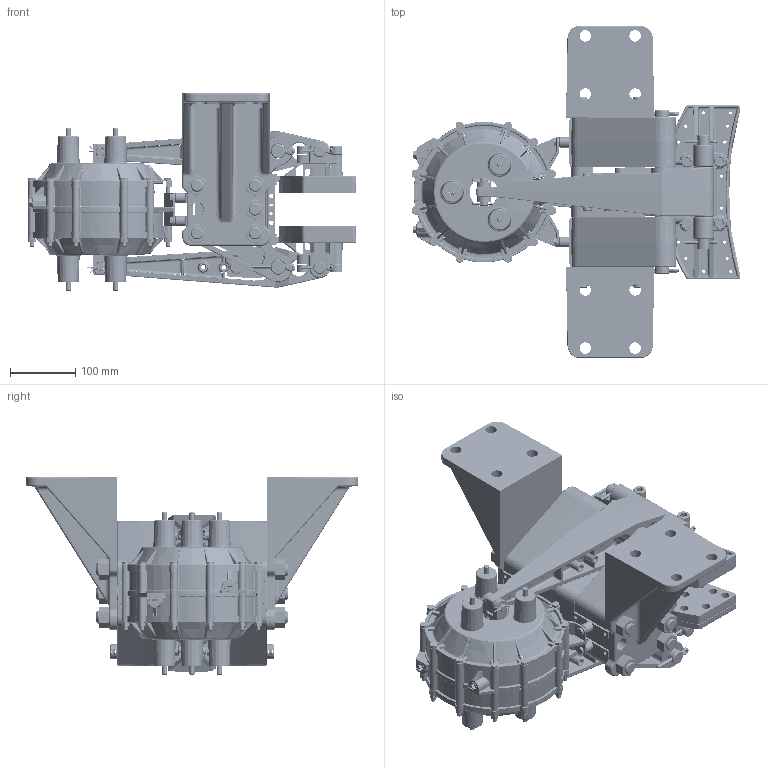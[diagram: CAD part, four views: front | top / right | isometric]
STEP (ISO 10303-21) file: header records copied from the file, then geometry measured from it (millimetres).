
FILE_DESCRIPTION (( 'STEP AP203' ), '1' );
FILE_NAME ('5024-AW.STEP', '2020-08-21T17:15:44', ( '' ), ( '' ), 'SwSTEP 2.0', 'SolidWorks 2019', '' );
FILE_SCHEMA (( 'CONFIG_CONTROL_DESIGN' ));
Products named in the file (2): 5024-AW
Bounding box: 502.89 x 507.62 x 301.75 mm (x, y, z)
Surface area: 1422773.6 mm2 (no closed solid volume)
Topology: 0 solids, 189 shells, 4244 faces, 13525 edges, 8899 vertices
Faces by surface type: cylinder 1252, bspline 1182, plane 1095, cone 711, torus 4
Entity records: 284473 total; most frequent: CARTESIAN_POINT 180741, ORIENTED_EDGE 21427, DIRECTION 18401, EDGE_CURVE 13431, VERTEX_POINT 8899, AXIS2_PLACEMENT_3D 6971, EDGE_LOOP 4713, B_SPLINE_CURVE_WITH_KNOTS 4703
